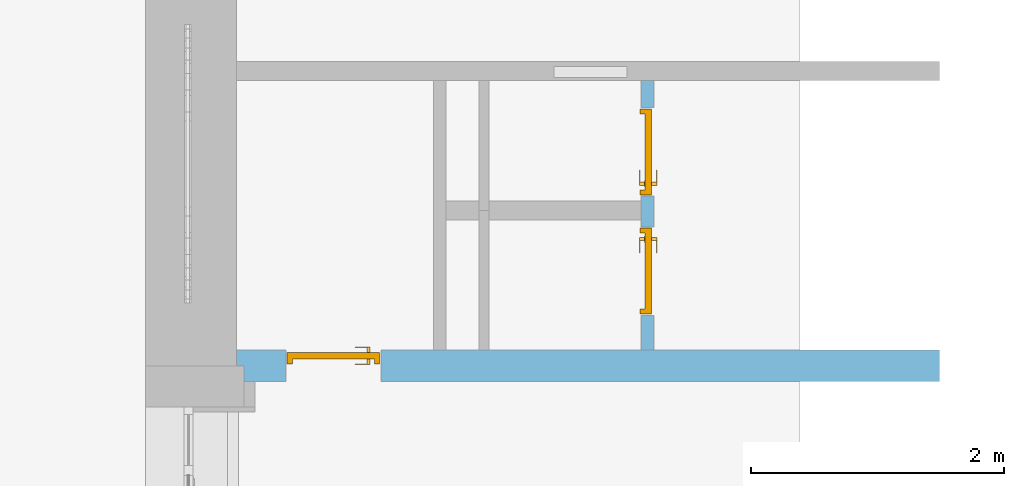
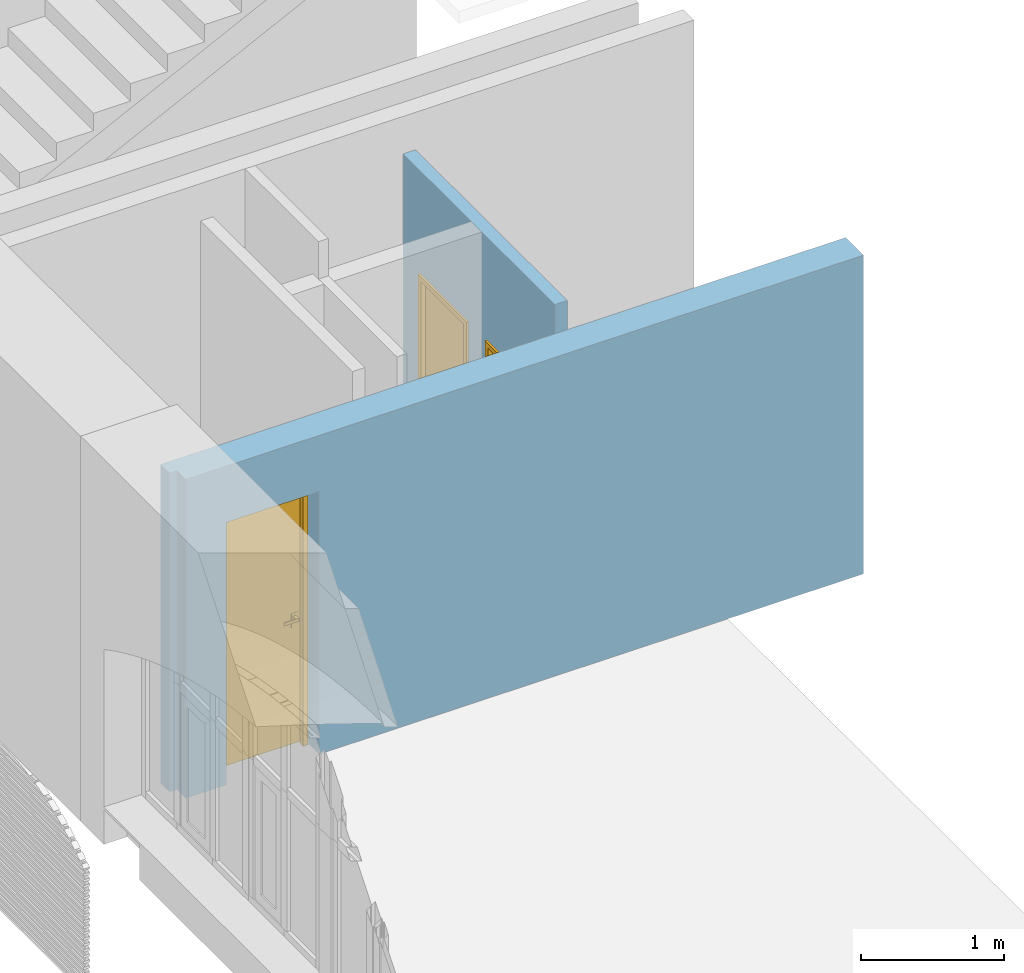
# One storey, part 79 of 88: 3 doors, 3 openings, plus 2 elements that do not belong to this part.
"""IFC2X3 building model written with IfcOpenShell, lengths in millimetres."""

from ifc_helpers import new_model, entity, si_unit, converted_unit, derived_unit, direction, frame, frame_2d, origin, place, context, subcontext, project, spatial, polyline, rectangle, outline, extrude, faceted_brep, source, transform, mapped, material, layer, layer_set, layer_usage, type_object, type_shapes, element, fill, save


model = new_model("IFC2X3")

# Units and contexts
model_context = context("Model", 3, precision=0.01, world=origin(), true_north=direction((6.123031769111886e-17, 1.0)))
body_context = subcontext(model_context, "Body", "Model", "MODEL_VIEW")
ifc_project = project(units=[si_unit("LENGTHUNIT", "METRE", prefix="MILLI"), si_unit("AREAUNIT", "SQUARE_METRE"), si_unit("VOLUMEUNIT", "CUBIC_METRE"), converted_unit("PLANEANGLEUNIT", "DEGREE", entity("IfcPlaneAngleMeasure", 0.017453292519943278), si_unit("PLANEANGLEUNIT", "RADIAN"), dimensions=[0, 0, 0, 0, 0, 0, 0]), si_unit("MASSUNIT", "GRAM", prefix="KILO"), derived_unit("MASSDENSITYUNIT", [(si_unit("MASSUNIT", "GRAM", prefix="KILO"), 1), (si_unit("LENGTHUNIT", "METRE"), -3)]), derived_unit("IONCONCENTRATIONUNIT", [(si_unit("MASSUNIT", "GRAM", prefix="KILO"), 1), (si_unit("LENGTHUNIT", "METRE"), -3)]), derived_unit("MOMENTOFINERTIAUNIT", [(si_unit("LENGTHUNIT", "METRE"), 4)]), si_unit("TIMEUNIT", "SECOND"), si_unit("FREQUENCYUNIT", "HERTZ"), si_unit("THERMODYNAMICTEMPERATUREUNIT", "DEGREE_CELSIUS"), derived_unit("THERMALTRANSMITTANCEUNIT", [(si_unit("MASSUNIT", "GRAM", prefix="KILO"), 1), (si_unit("THERMODYNAMICTEMPERATUREUNIT", "KELVIN"), -1), (si_unit("TIMEUNIT", "SECOND"), -3)]), derived_unit("THERMALCONDUCTANCEUNIT", [(si_unit("MASSUNIT", "GRAM", prefix="KILO"), 1), (si_unit("THERMODYNAMICTEMPERATUREUNIT", "KELVIN"), -1), (si_unit("TIMEUNIT", "SECOND"), -3), (si_unit("LENGTHUNIT", "METRE"), 1)]), derived_unit("VOLUMETRICFLOWRATEUNIT", [(si_unit("LENGTHUNIT", "METRE", prefix="DECI"), 3), (si_unit("TIMEUNIT", "SECOND"), -1)]), derived_unit("MASSFLOWRATEUNIT", [(si_unit("MASSUNIT", "GRAM", prefix="KILO"), 1), (si_unit("TIMEUNIT", "SECOND"), -1)]), derived_unit("ROTATIONALFREQUENCYUNIT", [(si_unit("TIMEUNIT", "SECOND"), -1)]), si_unit("ELECTRICCURRENTUNIT", "AMPERE"), si_unit("ELECTRICVOLTAGEUNIT", "VOLT"), si_unit("POWERUNIT", "WATT"), si_unit("FORCEUNIT", "NEWTON", prefix="KILO"), si_unit("ILLUMINANCEUNIT", "LUX"), si_unit("LUMINOUSFLUXUNIT", "LUMEN"), si_unit("LUMINOUSINTENSITYUNIT", "CANDELA"), si_unit("ENERGYUNIT", "JOULE"), derived_unit("USERDEFINED", [(si_unit("MASSUNIT", "GRAM", prefix="KILO"), -1), (si_unit("LENGTHUNIT", "METRE"), -2), (si_unit("TIMEUNIT", "SECOND"), 3), (si_unit("LUMINOUSFLUXUNIT", "LUMEN"), 1)]), derived_unit("USERDEFINED", [(si_unit("MASSUNIT", "GRAM", prefix="KILO"), 1), (si_unit("TIMEUNIT", "SECOND"), -3), (si_unit("LENGTHUNIT", "METRE"), 3), (si_unit("ELECTRICCURRENTUNIT", "AMPERE"), -2)]), derived_unit("SOUNDPOWERUNIT", [(si_unit("MASSUNIT", "GRAM", prefix="KILO"), 1), (si_unit("TIMEUNIT", "SECOND"), -3), (si_unit("LENGTHUNIT", "METRE"), 2)]), derived_unit("SOUNDPRESSUREUNIT", [(si_unit("MASSUNIT", "GRAM", prefix="KILO"), 1), (si_unit("LENGTHUNIT", "METRE"), -1), (si_unit("TIMEUNIT", "SECOND"), -2)]), derived_unit("LINEARVELOCITYUNIT", [(si_unit("LENGTHUNIT", "METRE"), 1), (si_unit("TIMEUNIT", "SECOND"), -1)]), si_unit("PRESSUREUNIT", "PASCAL"), derived_unit("USERDEFINED", [(si_unit("MASSUNIT", "GRAM", prefix="KILO"), 1), (si_unit("LENGTHUNIT", "METRE"), -2), (si_unit("TIMEUNIT", "SECOND"), -2)]), derived_unit("LINEARFORCEUNIT", [(si_unit("MASSUNIT", "GRAM", prefix="KILO"), 1), (si_unit("TIMEUNIT", "SECOND"), -2)]), derived_unit("PLANARFORCEUNIT", [(si_unit("MASSUNIT", "GRAM", prefix="KILO"), 1), (si_unit("LENGTHUNIT", "METRE"), -1), (si_unit("TIMEUNIT", "SECOND"), -2)]), derived_unit("SPECIFICHEATCAPACITYUNIT", [(si_unit("THERMODYNAMICTEMPERATUREUNIT", "KELVIN"), -1), (si_unit("LENGTHUNIT", "METRE"), 2), (si_unit("TIMEUNIT", "SECOND"), -2)]), derived_unit("HEATFLUXDENSITYUNIT", [(si_unit("MASSUNIT", "GRAM", prefix="KILO"), 1), (si_unit("TIMEUNIT", "SECOND"), -3)]), derived_unit("HEATINGVALUEUNIT", [(si_unit("LENGTHUNIT", "METRE"), 2), (si_unit("TIMEUNIT", "SECOND"), -2)]), derived_unit("VAPORPERMEABILITYUNIT", [(si_unit("LENGTHUNIT", "METRE"), -1), (si_unit("TIMEUNIT", "SECOND"), 1)]), derived_unit("DYNAMICVISCOSITYUNIT", [(si_unit("MASSUNIT", "GRAM", prefix="KILO"), 1), (si_unit("TIMEUNIT", "SECOND"), -1), (si_unit("LENGTHUNIT", "METRE"), -1)]), derived_unit("THERMALEXPANSIONCOEFFICIENTUNIT", [(si_unit("THERMODYNAMICTEMPERATUREUNIT", "KELVIN"), -1)]), derived_unit("MODULUSOFELASTICITYUNIT", [(si_unit("MASSUNIT", "GRAM", prefix="KILO"), 1), (si_unit("LENGTHUNIT", "METRE"), -1), (si_unit("TIMEUNIT", "SECOND"), -2)]), derived_unit("ISOTHERMALMOISTURECAPACITYUNIT", [(si_unit("MASSUNIT", "GRAM", prefix="KILO"), -1), (si_unit("LENGTHUNIT", "METRE"), 3)]), derived_unit("MOISTUREDIFFUSIVITYUNIT", [(si_unit("TIMEUNIT", "SECOND"), -1), (si_unit("LENGTHUNIT", "METRE"), 2)]), derived_unit("MASSPERLENGTHUNIT", [(si_unit("MASSUNIT", "GRAM", prefix="KILO"), 1), (si_unit("LENGTHUNIT", "METRE"), -1)]), derived_unit("THERMALRESISTANCEUNIT", [(si_unit("MASSUNIT", "GRAM", prefix="KILO"), -1), (si_unit("TIMEUNIT", "SECOND"), 3), (si_unit("THERMODYNAMICTEMPERATUREUNIT", "KELVIN"), 1)]), derived_unit("ACCELERATIONUNIT", [(si_unit("LENGTHUNIT", "METRE"), 1), (si_unit("TIMEUNIT", "SECOND"), -2)]), derived_unit("ANGULARVELOCITYUNIT", [(si_unit("TIMEUNIT", "SECOND"), -1), (si_unit("PLANEANGLEUNIT", "RADIAN"), 1)]), derived_unit("LINEARSTIFFNESSUNIT", [(si_unit("MASSUNIT", "GRAM", prefix="KILO"), 1), (si_unit("TIMEUNIT", "SECOND"), -2)]), derived_unit("WARPINGCONSTANTUNIT", [(si_unit("LENGTHUNIT", "METRE"), 6)]), derived_unit("LINEARMOMENTUNIT", [(si_unit("MASSUNIT", "GRAM", prefix="KILO"), 1), (si_unit("LENGTHUNIT", "METRE"), 1), (si_unit("TIMEUNIT", "SECOND"), -2)]), derived_unit("TORQUEUNIT", [(si_unit("MASSUNIT", "GRAM", prefix="KILO"), 1), (si_unit("LENGTHUNIT", "METRE"), 2), (si_unit("TIMEUNIT", "SECOND"), -2)])], contexts=[model_context])

# Site, building, storey
site_placement = place(None, origin())
site = spatial("IfcSite", under=ifc_project, at=site_placement, Name="Default", CompositionType="ELEMENT")
building_placement = place(site_placement, origin())
building = spatial("IfcBuilding", under=site, at=building_placement, Name="Eesti Rahvusraamatukogu hoone renoveerimise projekteerimistööd", CompositionType="ELEMENT")
storey_placement = place(building_placement, origin())
storey = spatial("IfcBuildingStorey", under=building, at=storey_placement, Name="1. korrus", CompositionType="ELEMENT", Elevation=0.0)

# Wall, opening, door
ifc_material_1 = material(Name="ol. olev materjal")
ifc_layer_1 = layer(ifc_material_1, 250.00000000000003)
ifc_layer_set_1 = layer_set([ifc_layer_1], Name="Basic Wall:ol. olev - 250mm")
ifc_layer_usage_1 = layer_usage(ifc_layer_set_1, "AXIS2", "NEGATIVE", 125.00000000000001)
wall_type_1 = type_object("IfcWallType", Name="Basic Wall:ol. olev - 250mm", PredefinedType="STANDARD", material=ifc_layer_set_1)
wall_1_placement = place(storey_placement, frame((-36060.0, 24315.0, 1650.0)))
wall_1 = element("IfcWallStandardCase", 1, at=wall_1_placement, inside=storey, type_object=wall_type_1, material=ifc_layer_usage_1, Name="Basic Wall:ol. olev - 250mm", ObjectType="Basic Wall:ol. olev - 250mm", context=body_context, shape_type="SweptSolid", body=[
    extrude(outline(polyline([(60.0, -125.0), (5470.0, -125.0), (5550.0, -125.0), (5550.0, 0.0), (5550.0, 125.0), (5470.0, 125.0), (0.0, 125.0), (0.0, 0.0), (60.0, 0.0), (60.0, -125.0)])), origin(), (0.0, 0.0, 1.0), 2730.0000000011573),
])
opening_1_placement = place(wall_1_placement, frame((390.0, -125.0, 0.0)))
opening_1 = element("IfcOpeningElement", 2, at=opening_1_placement, cuts=wall_1, Name="SMA_D01, 1-poolne:uus puituks - 750x2250 lävepakuta:1", ObjectType="Opening", context=body_context, shape_type="SweptSolid", body=[
    extrude(rectangle(XDim=2249.9999999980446, YDim=749.9999999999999, at=frame_2d((1124.9999999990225, 375.0000000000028), x_axis=(1.0, 0.0))), frame((0.0, 0.0, 0.0), z_axis=(0.0, 1.0, 0.0), x_axis=(0.0, 0.0, 1.0)), (0.0, 0.0, 1.0), 250.00000000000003),
])
ifc_material_2 = material(Name="EST. Metall. Alumiinium. Värvitud.")
door_style_1 = type_object("IfcDoorStyle", Name="SMA_D01, 1-poolne:uus puituks - 750x2250 lävepakuta", ConstructionType="NOTDEFINED", OperationType="NOTDEFINED", ParameterTakesPrecedence=False, Sizeable=False, material=ifc_material_2)
shared_shape_1 = source(origin(), body_context, "Body", "Brep", [
    faceted_brep([(640.0, 140.0, 1112.5), (545.0, 140.0, 1112.5), (545.0, 135.0, 1112.5), (665.0, 135.0, 1112.5), (665.0, 178.0, 1112.5), (640.0, 178.0, 1112.5), (640.0, 140.0, 1087.5), (640.0, 178.0, 1087.5), (665.0, 178.0, 1087.5), (665.0, 135.0, 1087.5), (545.0, 135.0, 1087.5), (545.0, 140.0, 1087.5)], [[[0, 1, 2, 3, 4, 5]], [[6, 7, 8, 9, 10, 11]], [[5, 7, 6, 0]], [[4, 8, 7, 5]], [[3, 9, 8, 4]], [[2, 10, 9, 3]], [[1, 11, 10, 2]], [[0, 6, 11, 1]]]),
    faceted_brep([(627.5000000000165, 178.0, 1137.5), (677.5000000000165, 178.0, 1137.5), (677.5000000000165, 180.0, 1137.5), (627.5000000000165, 180.0, 1137.5), (627.5000000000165, 178.0, 1017.5), (627.5000000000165, 180.0, 1017.5), (677.5000000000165, 180.0, 1017.5), (677.5000000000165, 178.0, 1017.5)], [[[0, 1, 2, 3]], [[4, 5, 6, 7]], [[3, 5, 4, 0]], [[2, 6, 5, 3]], [[1, 7, 6, 2]], [[0, 4, 7, 1]]]),
    faceted_brep([(640.0, 270.0, 1112.5), (640.0, 232.0, 1112.5), (665.0, 232.0, 1112.5), (665.0, 275.0, 1112.5), (545.0, 275.0, 1112.5), (545.0, 270.0, 1112.5), (640.0, 270.0, 1087.5), (545.0, 270.0, 1087.5), (545.0, 275.0, 1087.5), (665.0, 275.0, 1087.5), (665.0, 232.0, 1087.5), (640.0, 232.0, 1087.5)], [[[0, 1, 2, 3, 4, 5]], [[6, 7, 8, 9, 10, 11]], [[1, 0, 6, 11]], [[2, 1, 11, 10]], [[3, 2, 10, 9]], [[4, 3, 9, 8]], [[5, 4, 8, 7]], [[0, 5, 7, 6]]]),
    faceted_brep([(627.5000000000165, 232.0, 1137.5), (627.5000000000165, 230.0, 1137.5), (677.5000000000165, 230.0, 1137.5), (677.5000000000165, 232.0, 1137.5), (627.5000000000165, 232.0, 1017.5), (677.5000000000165, 232.0, 1017.5), (677.5000000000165, 230.0, 1017.5), (627.5000000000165, 230.0, 1017.5)], [[[0, 1, 2, 3]], [[4, 5, 6, 7]], [[1, 0, 4, 7]], [[2, 1, 7, 6]], [[3, 2, 6, 5]], [[0, 3, 5, 4]]]),
    faceted_brep([(10.0, 140.0, 0.0), (10.0, 230.0, 0.0), (35.0, 230.0, 0.0), (35.0, 180.0, 0.0), (50.0, 180.0, 0.0), (50.0, 140.0, 0.0), (50.0, 140.0, 2199.999999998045), (700.0, 140.0, 2199.999999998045), (700.0, 140.0, 0.0), (740.0, 140.0, 0.0), (740.0, 140.0, 2239.999999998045), (10.0, 140.0, 2239.999999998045), (50.0, 180.0, 2199.999999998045), (35.0, 180.0, 2214.999999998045), (715.0, 180.0, 2214.999999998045), (715.0, 180.0, 0.0), (700.0, 180.0, 0.0), (700.0, 180.0, 2199.999999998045), (35.0, 230.0, 2214.999999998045), (10.0, 230.0, 2239.999999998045), (740.0, 230.0, 2239.999999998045), (740.0, 230.0, 0.0), (715.0, 230.0, 0.0), (715.0, 230.0, 2214.9999999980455)], [[[0, 1, 2, 3, 4, 5]], [[5, 6, 7, 8, 9, 10, 11, 0]], [[4, 12, 6, 5]], [[3, 13, 14, 15, 16, 17, 12, 4]], [[2, 18, 13, 3]], [[1, 19, 20, 21, 22, 23, 18, 2]], [[0, 11, 19, 1]], [[9, 21, 20, 10]], [[8, 16, 15, 22, 21, 9]], [[7, 17, 16, 8]], [[14, 23, 22, 15]], [[6, 12, 17, 7]], [[13, 18, 23, 14]], [[10, 20, 19, 11]]]),
    faceted_brep([(715.0, 180.0, 2214.999999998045), (35.0, 180.0, 2214.999999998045), (35.0, 180.0, 20.0), (715.0, 180.0, 20.0), (715.0, 230.0, 2214.999999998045), (715.0, 230.0, 20.0), (35.0, 230.0, 20.0), (35.0, 230.0, 2214.999999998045)], [[[0, 1, 2, 3]], [[4, 5, 6, 7]], [[3, 5, 4, 0]], [[2, 6, 5, 3]], [[1, 7, 6, 2]], [[0, 4, 7, 1]]]),
])
type_shapes(door_style_1, [shared_shape_1])
door_1_placement = place(opening_1_placement, origin())
door_1 = element("IfcDoor", 3, at=door_1_placement, inside=storey, type_object=door_style_1, material=ifc_material_2, Name="SMA_D01, 1-poolne:uus puituks - 750x2250 lävepakuta", ObjectType="SMA_D01, 1-poolne:uus puituks - 750x2250 lävepakuta", OverallHeight=2249.999999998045, OverallWidth=750.0000000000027, context=body_context, shape_type="MappedRepresentation", body=[
    mapped(shared_shape_1, transform((0.0, 0.0, 0.0), scale=1.0)),
])
fill(opening_1, door_1)

# Wall, openings, doors
ifc_material_3 = material(Name="EST. Müüritis. Väikeplokk. Poorbetoonplokk")
ifc_layer_2 = layer(ifc_material_3, 100.0)
ifc_layer_set_2 = layer_set([ifc_layer_2], Name="Basic Wall:SS-70 - 100 poorbetoon")
ifc_layer_usage_2 = layer_usage(ifc_layer_set_2, "AXIS2", "NEGATIVE", 50.0)
wall_type_2 = type_object("IfcWallType", Name="Basic Wall:SS-70 - 100 poorbetoon", PredefinedType="STANDARD", material=ifc_layer_set_2)
wall_2_placement = place(storey_placement, frame((-32815.0, 26570.0, 1650.0), z_axis=(0.0, 0.0, 1.0), x_axis=(0.0, -1.0, 0.0)))
wall_2 = element("IfcWallStandardCase", 4, at=wall_2_placement, inside=storey, type_object=wall_type_2, material=ifc_layer_usage_2, Name="Basic Wall:SS-70 - 100 poorbetoon", ObjectType="Basic Wall:SS-70 - 100 poorbetoon", context=body_context, shape_type="SweptSolid", body=[
    extrude(rectangle(XDim=2129.9999999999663, YDim=100.00000000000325, at=frame_2d((1064.9999999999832, -2.842170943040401e-14), x_axis=(-1.0, 0.0))), origin(), (0.0, 0.0, 1.0), 2980.000000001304),
])
opening_2_placement = place(wall_2_placement, frame((1156.99814021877, -50.0, 0.0)))
opening_2 = element("IfcOpeningElement", 5, at=opening_2_placement, cuts=wall_2, Name="SMA_D01, 1-poolne:uus puituks - 700x2100 lävepakuta 2:1", ObjectType="Opening", context=body_context, shape_type="SweptSolid", body=[
    extrude(rectangle(XDim=2099.999999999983, YDim=699.9999999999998, at=frame_2d((1049.9999999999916, 349.9999999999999), x_axis=(1.0, 0.0))), frame((0.0, 0.0, 0.0), z_axis=(0.0, 1.0, 0.0), x_axis=(0.0, 0.0, 1.0)), (0.0, 0.0, 1.0), 100.0),
])
opening_3_placement = place(wall_2_placement, frame((215.0, -50.0, 0.0)))
opening_3 = element("IfcOpeningElement", 6, at=opening_3_placement, cuts=wall_2, Name="SMA_D01, 1-poolne:uus puituks - 700x2100 lävepakuta 2:1", ObjectType="Opening", context=body_context, shape_type="SweptSolid", body=[
    extrude(rectangle(XDim=2099.999999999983, YDim=699.9999999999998, at=frame_2d((1049.9999999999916, 349.9999999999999), x_axis=(1.0, 0.0))), frame((0.0, 0.0, 0.0), z_axis=(0.0, 1.0, 0.0), x_axis=(0.0, 0.0, 1.0)), (0.0, 0.0, 1.0), 100.0),
])
door_style_2 = type_object("IfcDoorStyle", Name="SMA_D01, 1-poolne:uus puituks - 700x2100 lävepakuta 2", ConstructionType="NOTDEFINED", OperationType="NOTDEFINED", ParameterTakesPrecedence=False, Sizeable=False, material=ifc_material_2)
shared_shape_2 = source(origin(), body_context, "Body", "Brep", [
    faceted_brep([(110.0, -10.0, 1112.5), (110.0, 28.0, 1112.5), (85.0, 28.0, 1112.5), (85.0, -15.0, 1112.5), (205.0, -15.0, 1112.5), (205.0, -10.0, 1112.5), (110.0, -10.0, 1087.5), (205.0, -10.0, 1087.5), (205.0, -15.0, 1087.5), (85.0, -15.0, 1087.5), (85.0, 28.0, 1087.5), (110.0, 28.0, 1087.5)], [[[0, 1, 2, 3, 4, 5]], [[6, 7, 8, 9, 10, 11]], [[1, 0, 6, 11]], [[2, 1, 11, 10]], [[3, 2, 10, 9]], [[4, 3, 9, 8]], [[5, 4, 8, 7]], [[0, 5, 7, 6]]]),
    faceted_brep([(122.49999999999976, 28.0, 1137.5), (122.49999999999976, 30.0, 1137.5), (72.49999999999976, 30.0, 1137.5), (72.49999999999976, 28.0, 1137.5), (122.49999999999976, 28.0, 1017.5), (72.49999999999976, 28.0, 1017.5), (72.49999999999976, 30.0, 1017.5), (122.49999999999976, 30.0, 1017.5)], [[[0, 1, 2, 3]], [[4, 5, 6, 7]], [[1, 0, 4, 7]], [[2, 1, 7, 6]], [[3, 2, 6, 5]], [[0, 3, 5, 4]]]),
    faceted_brep([(110.0, 120.0, 1112.5), (205.0, 120.0, 1112.5), (205.0, 125.0, 1112.5), (85.0, 125.0, 1112.5), (85.0, 82.0, 1112.5), (110.0, 82.0, 1112.5), (110.0, 120.0, 1087.5), (110.0, 82.0, 1087.5), (85.0, 82.0, 1087.5), (85.0, 125.0, 1087.5), (205.0, 125.0, 1087.5), (205.0, 120.0, 1087.5)], [[[0, 1, 2, 3, 4, 5]], [[6, 7, 8, 9, 10, 11]], [[5, 7, 6, 0]], [[4, 8, 7, 5]], [[3, 9, 8, 4]], [[2, 10, 9, 3]], [[1, 11, 10, 2]], [[0, 6, 11, 1]]]),
    faceted_brep([(122.49999999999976, 82.0, 1137.5), (72.49999999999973, 82.0, 1137.5), (72.49999999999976, 80.0, 1137.5), (122.49999999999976, 80.0, 1137.5), (122.49999999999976, 82.0, 1017.5), (122.49999999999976, 80.0, 1017.5), (72.49999999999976, 80.0, 1017.5), (72.49999999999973, 82.0, 1017.5)], [[[0, 1, 2, 3]], [[4, 5, 6, 7]], [[3, 5, 4, 0]], [[2, 6, 5, 3]], [[1, 7, 6, 2]], [[0, 4, 7, 1]]]),
    faceted_brep([(690.0, -10.0, 0.0), (650.0, -10.0, 0.0), (650.0, 30.0, 0.0), (665.0, 30.0, 0.0), (665.0, 80.0, 0.0), (690.0, 80.0, 0.0), (690.0, -10.0, 2090.0), (10.0, -10.0, 2090.0), (10.0, -10.0, 0.0), (50.0, -10.0, 0.0), (50.0, -10.0, 2050.0), (650.0, -10.0, 2050.0), (650.0, 30.0, 2050.0), (50.0, 30.0, 2050.0), (50.0, 30.0, 0.0), (35.0, 30.0, 0.0), (35.0, 30.0, 2065.0), (665.0, 30.0, 2065.0), (665.0, 80.0, 2065.0), (35.0, 80.0, 2065.0), (35.0, 80.0, 0.0), (10.0, 80.0, 0.0), (10.0, 80.0, 2090.0), (690.0, 80.0, 2090.0)], [[[0, 1, 2, 3, 4, 5]], [[1, 0, 6, 7, 8, 9, 10, 11]], [[2, 1, 11, 12]], [[3, 2, 12, 13, 14, 15, 16, 17]], [[4, 3, 17, 18]], [[5, 4, 18, 19, 20, 21, 22, 23]], [[0, 5, 23, 6]], [[8, 7, 22, 21]], [[9, 8, 21, 20, 15, 14]], [[10, 9, 14, 13]], [[16, 15, 20, 19]], [[11, 10, 13, 12]], [[17, 16, 19, 18]], [[7, 6, 23, 22]]]),
    faceted_brep([(35.0, 30.0, 2065.0), (35.0, 30.0, 20.0), (665.0, 30.0, 20.0), (665.0, 30.0, 2065.0), (35.0, 80.0, 2065.0), (665.0, 80.0, 2065.0), (665.0, 80.0, 20.0), (35.0, 80.0, 20.0)], [[[0, 1, 2, 3]], [[4, 5, 6, 7]], [[1, 0, 4, 7]], [[2, 1, 7, 6]], [[3, 2, 6, 5]], [[0, 3, 5, 4]]]),
])
type_shapes(door_style_2, [shared_shape_2])
door_2_placement = place(opening_2_placement, origin())
door_2 = element("IfcDoor", 7, at=door_2_placement, inside=storey, type_object=door_style_2, material=ifc_material_2, Name="SMA_D01, 1-poolne:uus puituks - 700x2100 lävepakuta 2", ObjectType="SMA_D01, 1-poolne:uus puituks - 700x2100 lävepakuta 2", OverallHeight=2099.999999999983, OverallWidth=700.0000000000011, context=body_context, shape_type="MappedRepresentation", body=[
    mapped(shared_shape_2, transform((0.0, 0.0, 0.0), scale=1.0)),
])
fill(opening_2, door_2)
door_style_3 = type_object("IfcDoorStyle", Name="SMA_D01, 1-poolne:uus puituks - 700x2100 lävepakuta 2", ConstructionType="NOTDEFINED", OperationType="NOTDEFINED", ParameterTakesPrecedence=False, Sizeable=False, material=ifc_material_2)
shared_shape_3 = source(origin(), body_context, "Body", "Brep", [
    faceted_brep([(590.0, -10.0, 1112.5), (495.0, -10.0, 1112.5), (495.0, -15.0, 1112.5), (615.0, -15.0, 1112.5), (615.0, 28.0, 1112.5), (590.0, 28.0, 1112.5), (590.0, -10.0, 1087.5), (590.0, 28.0, 1087.5), (615.0, 28.0, 1087.5), (615.0, -15.0, 1087.5), (495.0, -15.0, 1087.5), (495.0, -10.0, 1087.5)], [[[0, 1, 2, 3, 4, 5]], [[6, 7, 8, 9, 10, 11]], [[5, 7, 6, 0]], [[4, 8, 7, 5]], [[3, 9, 8, 4]], [[2, 10, 9, 3]], [[1, 11, 10, 2]], [[0, 6, 11, 1]]]),
    faceted_brep([(577.5000000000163, 28.0, 1137.5), (627.5000000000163, 28.0, 1137.5), (627.5000000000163, 30.0, 1137.5), (577.5000000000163, 30.0, 1137.5), (577.5000000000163, 28.0, 1017.5), (577.5000000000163, 30.0, 1017.5), (627.5000000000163, 30.0, 1017.5), (627.5000000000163, 28.0, 1017.5)], [[[0, 1, 2, 3]], [[4, 5, 6, 7]], [[3, 5, 4, 0]], [[2, 6, 5, 3]], [[1, 7, 6, 2]], [[0, 4, 7, 1]]]),
    faceted_brep([(590.0, 120.0, 1112.5), (590.0, 82.0, 1112.5), (615.0, 82.0, 1112.5), (615.0, 125.0, 1112.5), (495.0, 125.0, 1112.5), (495.0, 120.0, 1112.5), (590.0, 120.0, 1087.5), (495.0, 120.0, 1087.5), (495.0, 125.0, 1087.5), (615.0, 125.0, 1087.5), (615.0, 82.0, 1087.5), (590.0, 82.0, 1087.5)], [[[0, 1, 2, 3, 4, 5]], [[6, 7, 8, 9, 10, 11]], [[1, 0, 6, 11]], [[2, 1, 11, 10]], [[3, 2, 10, 9]], [[4, 3, 9, 8]], [[5, 4, 8, 7]], [[0, 5, 7, 6]]]),
    faceted_brep([(577.5000000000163, 82.0, 1137.5), (577.5000000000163, 80.0, 1137.5), (627.5000000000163, 80.0, 1137.5), (627.5000000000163, 82.0, 1137.5), (577.5000000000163, 82.0, 1017.5), (627.5000000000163, 82.0, 1017.5), (627.5000000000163, 80.0, 1017.5), (577.5000000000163, 80.0, 1017.5)], [[[0, 1, 2, 3]], [[4, 5, 6, 7]], [[1, 0, 4, 7]], [[2, 1, 7, 6]], [[3, 2, 6, 5]], [[0, 3, 5, 4]]]),
    faceted_brep([(10.0, -10.0, 0.0), (10.0, 80.0, 0.0), (35.0, 80.0, 0.0), (35.0, 30.0, 0.0), (50.0, 30.0, 0.0), (50.0, -10.0, 0.0), (50.0, -10.0, 2050.0), (650.0, -10.0, 2050.0), (650.0, -10.0, 0.0), (690.0, -10.0, 0.0), (690.0, -10.0, 2090.0), (10.0, -10.0, 2090.0), (50.0, 30.0, 2050.0), (35.0, 30.0, 2065.0), (665.0, 30.0, 2065.0), (665.0, 30.0, 0.0), (650.0, 30.0, 0.0), (650.0, 30.0, 2050.0), (35.0, 80.0, 2065.0), (10.0, 80.0, 2090.0), (690.0, 80.0, 2090.0), (690.0, 80.0, 0.0), (665.0, 80.0, 0.0), (665.0, 80.0, 2065.0)], [[[0, 1, 2, 3, 4, 5]], [[5, 6, 7, 8, 9, 10, 11, 0]], [[4, 12, 6, 5]], [[3, 13, 14, 15, 16, 17, 12, 4]], [[2, 18, 13, 3]], [[1, 19, 20, 21, 22, 23, 18, 2]], [[0, 11, 19, 1]], [[9, 21, 20, 10]], [[8, 16, 15, 22, 21, 9]], [[7, 17, 16, 8]], [[14, 23, 22, 15]], [[6, 12, 17, 7]], [[13, 18, 23, 14]], [[10, 20, 19, 11]]]),
    faceted_brep([(665.0, 30.0, 2065.0), (35.0, 30.0, 2065.0), (35.0, 30.0, 20.0), (665.0, 30.0, 20.0), (665.0, 80.0, 2065.0), (665.0, 80.0, 20.0), (35.0, 80.0, 20.0), (35.0, 80.0, 2065.0)], [[[0, 1, 2, 3]], [[4, 5, 6, 7]], [[3, 5, 4, 0]], [[2, 6, 5, 3]], [[1, 7, 6, 2]], [[0, 4, 7, 1]]]),
])
type_shapes(door_style_3, [shared_shape_3])
door_3_placement = place(opening_3_placement, origin())
door_3 = element("IfcDoor", 8, at=door_3_placement, inside=storey, type_object=door_style_3, material=ifc_material_2, Name="SMA_D01, 1-poolne:uus puituks - 700x2100 lävepakuta 2", ObjectType="SMA_D01, 1-poolne:uus puituks - 700x2100 lävepakuta 2", OverallHeight=2099.999999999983, OverallWidth=700.0000000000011, context=body_context, shape_type="MappedRepresentation", body=[
    mapped(shared_shape_3, transform((0.0, 0.0, 0.0), scale=1.0)),
])
fill(opening_3, door_3)

save(model, "model.ifc")
